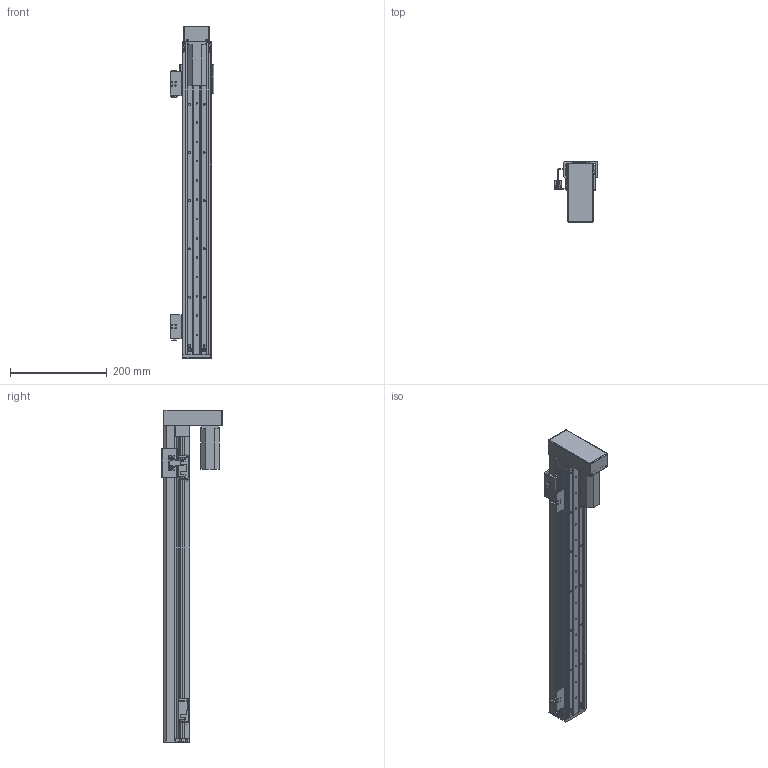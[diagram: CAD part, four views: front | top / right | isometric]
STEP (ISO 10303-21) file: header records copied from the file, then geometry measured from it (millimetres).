
FILE_DESCRIPTION (( 'STEP AP203' ), '1' );
FILE_NAME ('RY60FB-L1210-300-BK.SLDASM_500.step', '2021-02-23T00:55:28', ( '盈信电脑' ), ( '东莞市道滘镇水果街19号' ), 'SwSTEP 2.0', 'SolidWorks 2012', '' );
FILE_SCHEMA (( 'CONFIG_CONTROL_DESIGN' ));
Length unit declared in the file: millimetre
Products named in the file (15): RY60FB-蛌殏萇儂欶; RY60FB-674嫖萇耀輸; RY60FB-L1210-300-BK.SLDASM_500; RY60FB-狟殏萇儂假蚾啣; 覜茼ん674; RY80俋离覜茼え; RY60FB-感应器674光电安装座; RY60FB转折电机端支撑座; 侂狟100W; RY60FB綴裔啣; RY60FB-蛌殏奻裔-300-BK_500; 滅袉蝶18-10; RY60FB-臏賑輸; RY60FB-蛌殏菁釱-300-BK_500
Assembly tree (20 placements, depth 3):
  RY60FB-L1210-300-BK.SLDASM_500
    RY60FB-蛌殏菁釱-300-BK_500
    RY60FB-臏賑輸
    滅袉蝶18-10  x4
    RY60FB-蛌殏奻裔-300-BK_500
    侂狟100W
    RY60FB綴裔啣
    RY60FB转折电机端支撑座
    RY80俋离覜茼え
    RY60FB-674嫖萇耀輸
      RY60FB-感应器674光电安装座
      覜茼ん674  x2
    RY60FB-674嫖萇耀輸
      RY60FB-感应器674光电安装座
      覜茼ん674
    RY60FB-狟殏萇儂假蚾啣
    RY60FB-蛌殏萇儂欶
Bounding box: 90 x 125.45 x 688 mm (x, y, z)
Volume: 913255.2 mm3; surface area: 505423.5 mm2
Topology: 18 solids, 18 shells, 1099 faces, 2998 edges, 1908 vertices
Faces by surface type: plane 529, cylinder 465, cone 97, bspline 8
Entity records: 31647 total; most frequent: CARTESIAN_POINT 6153, DIRECTION 5014, ORIENTED_EDGE 4892, EDGE_CURVE 2446, AXIS2_PLACEMENT_3D 1757, VERTEX_POINT 1584, LINE 1500, VECTOR 1500
